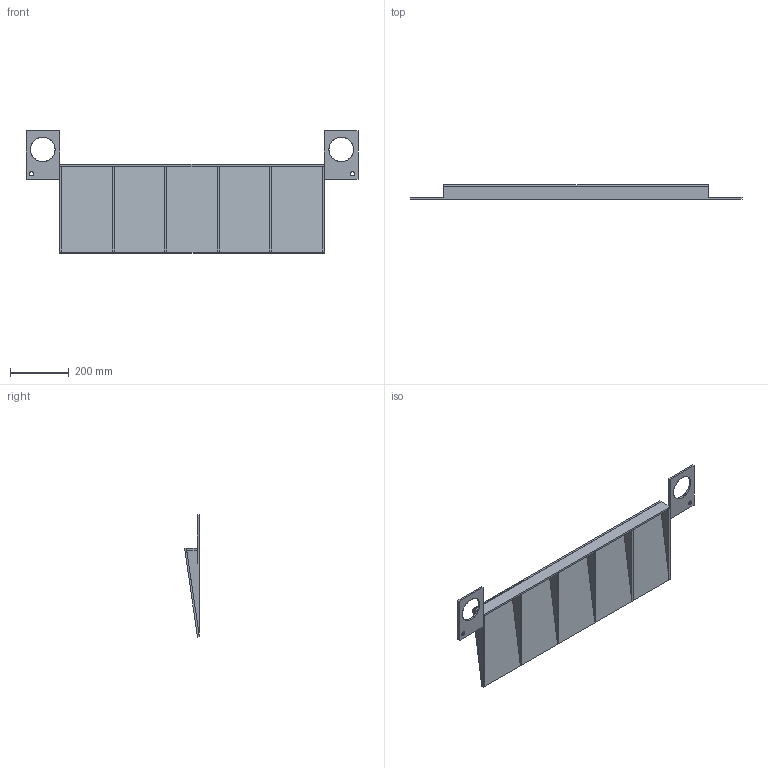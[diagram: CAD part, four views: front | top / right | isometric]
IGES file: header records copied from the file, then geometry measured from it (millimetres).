
Start section: SolidWorks IGES file using analytic representation for surfaces
Global section: file name: C:\0_Work\SolidWorks\HI DS Drum Scales\Drum Scale Ramp_HIDSR-3612 Series.IGS; native system: SolidWorks 2023; preprocessor: SolidWorks 2023; author: vach01; date: 240514.084940; units: inch
Bounding box: 1130.3 x 50.53 x 416.79 mm (x, y, z)
Surface area: 817328.8 mm2 (no closed solid volume)
Topology: 0 solids, 0 shells, 62 faces, 620 edges, 620 vertices
Faces by surface type: bspline 54, revolution 8
